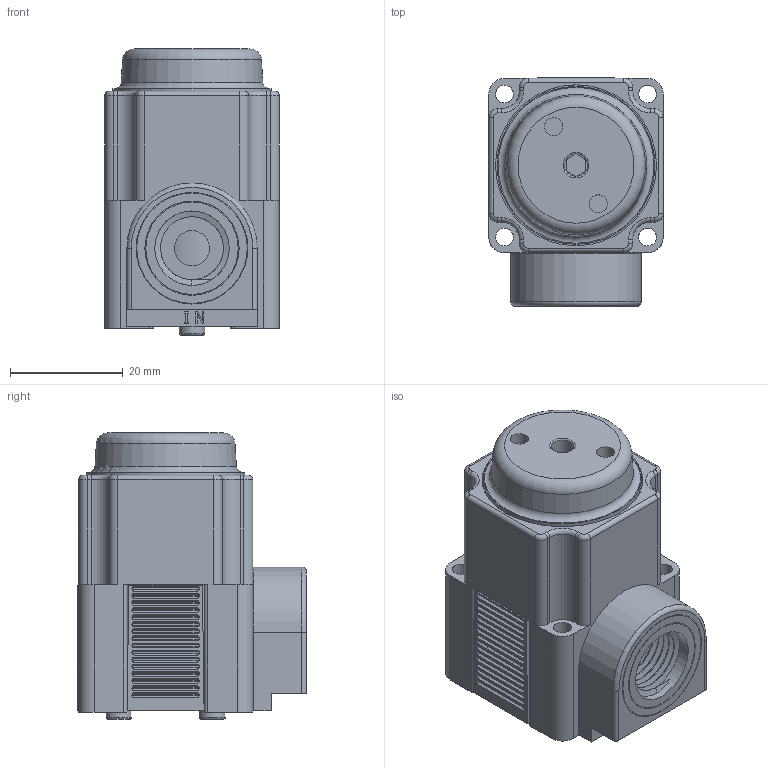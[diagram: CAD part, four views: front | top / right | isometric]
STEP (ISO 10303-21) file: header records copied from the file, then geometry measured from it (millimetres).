
FILE_DESCRIPTION(/* description */ (''),/* implementation_level */ '2;1');
FILE_NAME(/* name */ 'K:\Normteile INVENTOR\Air-Logic\Regulators\PR6000\PR 6___ 2 1''4-18 NPT Threads In.igs.ipt.stp',/* time_stamp */ '2020-05-27T10:52:40+02:00',/* author */ ('Paul'),/* organization */ (''),/* preprocessor_version */ 'ST-DEVELOPER v18',/* originating_system */ 'Autodesk Inventor 2020',/* authorisation */ '');
FILE_SCHEMA (('AUTOMOTIVE_DESIGN { 1 0 10303 214 3 1 1 }'));
Length unit declared in the file: inch
Products named in the file (1): PR 6___ 2 1'4-18 NPT Threads In.igs
Bounding box: 31.19 x 40.56 x 50.78 mm (x, y, z)
Volume: 42271.4 mm3; surface area: 14440.5 mm2
Topology: 1 solids, 1 shells, 692 faces, 1796 edges, 1183 vertices
Faces by surface type: plane 355, cylinder 284, torus 28, bspline 22, cone 3
Full cylindrical faces by diameter (mm): 1.194 x1, 2.032 x1, 3.124 x2, 3.175 x8, 3.226 x2, 4.013 x1, 4.521 x2, 6.223 x1, 6.248 x1, 8.382 x2, 11.163 x6, 13.208 x6, 16.408 x1, 16.717 x1, 19.612 x1, 19.825 x1, 25.781 x1, 28.047 x1, 28.575 x1
Entity records: 26791 total; most frequent: CARTESIAN_POINT 8673, DIRECTION 3768, ORIENTED_EDGE 3592, EDGE_CURVE 1796, AXIS2_PLACEMENT_3D 1471, VERTEX_POINT 1183, LINE 826, VECTOR 826
